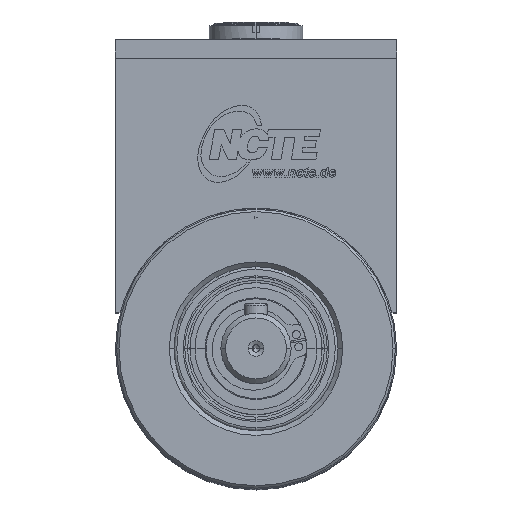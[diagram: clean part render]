
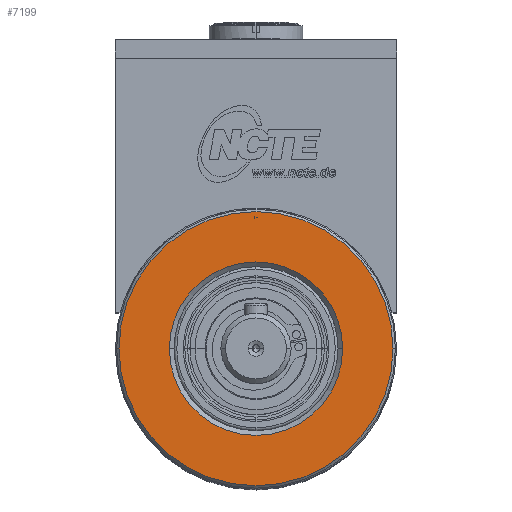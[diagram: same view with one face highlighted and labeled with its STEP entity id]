
A CAD part, top view. The second image highlights one B-rep face of the part: STEP entity #7199.
In plain terms, the highlighted planar face has unit normal (0, 0, -1).
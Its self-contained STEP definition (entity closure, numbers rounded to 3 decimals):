
#809 = CARTESIAN_POINT ( 'NONE',  ( -18.5, 0., 13. ) ) ;
#1589 = AXIS2_PLACEMENT_3D ( 'NONE', #17951, #28754, #31391 ) ;
#1742 = CARTESIAN_POINT ( 'NONE',  ( 0., 0., 13. ) ) ;
#2281 = EDGE_LOOP ( 'NONE', ( #19960, #28502 ) ) ;
#2873 = CIRCLE ( 'NONE', #15370, 18.5 ) ;
#3055 = VERTEX_POINT ( 'NONE', #809 ) ;
#4672 = EDGE_CURVE ( 'NONE', #3055, #8585, #18364, .T. ) ;
#4913 = CARTESIAN_POINT ( 'NONE',  ( 29.25, 0., 13. ) ) ;
#5080 = CIRCLE ( 'NONE', #1589, 29.25 ) ;
#6516 = AXIS2_PLACEMENT_3D ( 'NONE', #1742, #20341, #9738 ) ;
#7199 = ADVANCED_FACE ( 'N', ( #23353, #31619 ), #30875, .F. ) ;
#7570 = AXIS2_PLACEMENT_3D ( 'NONE', #22685, #33427, #9297 ) ;
#7838 = CARTESIAN_POINT ( 'NONE',  ( 0., 0., 13. ) ) ;
#8585 = VERTEX_POINT ( 'NONE', #17204 ) ;
#8965 = DIRECTION ( 'NONE',  ( 0., 0., -1. ) ) ;
#9297 = DIRECTION ( 'NONE',  ( 1., 0., 0. ) ) ;
#9370 = CARTESIAN_POINT ( 'NONE',  ( -29.25, 0., 13. ) ) ;
#9738 = DIRECTION ( 'NONE',  ( 1., 0., 0. ) ) ;
#10934 = EDGE_CURVE ( 'NONE', #25247, #11523, #5080, .T. ) ;
#11523 = VERTEX_POINT ( 'NONE', #9370 ) ;
#12359 = AXIS2_PLACEMENT_3D ( 'NONE', #14699, #8965, #30333 ) ;
#14699 = CARTESIAN_POINT ( 'NONE',  ( 0., 0., 13. ) ) ;
#15370 = AXIS2_PLACEMENT_3D ( 'NONE', #7838, #16209, #15882 ) ;
#15882 = DIRECTION ( 'NONE',  ( 1., 0., 0. ) ) ;
#16209 = DIRECTION ( 'NONE',  ( 0., 0., -1. ) ) ;
#17204 = CARTESIAN_POINT ( 'NONE',  ( 18.5, 0., 13. ) ) ;
#17951 = CARTESIAN_POINT ( 'NONE',  ( 0., 0., 13. ) ) ;
#18364 = CIRCLE ( 'NONE', #7570, 18.5 ) ;
#19960 = ORIENTED_EDGE ( 'NONE', *, *, #32301, .T. ) ;
#20341 = DIRECTION ( 'NONE',  ( 0., 0., 1. ) ) ;
#22685 = CARTESIAN_POINT ( 'NONE',  ( 0., 0., 13. ) ) ;
#23353 = FACE_OUTER_BOUND ( 'NONE', #2281, .T. ) ;
#25247 = VERTEX_POINT ( 'NONE', #4913 ) ;
#25466 = CIRCLE ( 'NONE', #12359, 29.25 ) ;
#26454 = EDGE_CURVE ( 'NONE', #8585, #3055, #2873, .T. ) ;
#28186 = ORIENTED_EDGE ( 'NONE', *, *, #26454, .F. ) ;
#28319 = ORIENTED_EDGE ( 'NONE', *, *, #4672, .F. ) ;
#28502 = ORIENTED_EDGE ( 'NONE', *, *, #10934, .T. ) ;
#28754 = DIRECTION ( 'NONE',  ( 0., 0., -1. ) ) ;
#30333 = DIRECTION ( 'NONE',  ( -1., 0., 0. ) ) ;
#30875 = PLANE ( 'NONE',  #6516 ) ;
#31391 = DIRECTION ( 'NONE',  ( -1., 0., 0. ) ) ;
#31619 = FACE_BOUND ( 'NONE', #33476, .T. ) ;
#32301 = EDGE_CURVE ( 'NONE', #11523, #25247, #25466, .T. ) ;
#33427 = DIRECTION ( 'NONE',  ( 0., 0., -1. ) ) ;
#33476 = EDGE_LOOP ( 'NONE', ( #28186, #28319 ) ) ;
